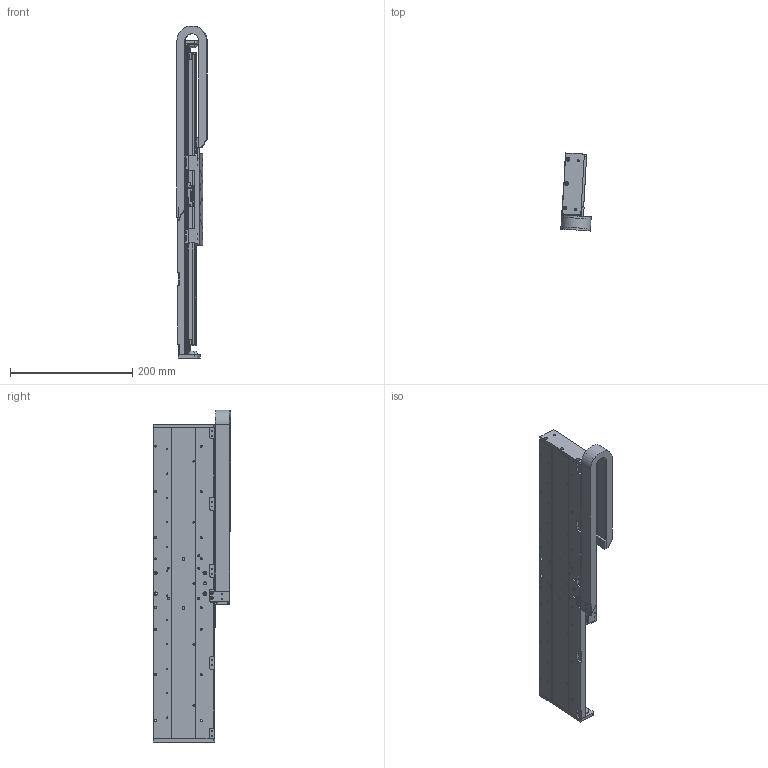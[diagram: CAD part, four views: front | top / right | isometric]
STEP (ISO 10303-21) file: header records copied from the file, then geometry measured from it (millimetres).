
FILE_DESCRIPTION(/* description */ ('MSR100 BASE'),/* implementation_level */ '2;1');
FILE_NAME(/* name */ 'I:\FY15 Projects\MSR\MSR100\Web Step Models\mSR100L-350XLDXXXXXXCM13.stp',/* time_stamp */ '2015-02-18T13:26:04-05:00',/* author */ ('BF20108'),/* organization */ (''),/* preprocessor_version */ 'ST-DEVELOPER v15.2',/* originating_system */ 'Autodesk Inventor 2014',/* authorisation */ '');
FILE_SCHEMA (('AUTOMOTIVE_DESIGN { 1 0 10303 214 3 1 1 }'));
Products named in the file (17): 102-5710-09; 003-3562-41; 102-5702-08; ml18-120m-n; 102-5703-01; 102-5705-01; 002-3740-09; 003-3561; 003-5000; 102-5708; ML18-5E; 002-3740-long-carriage-assy; mx100-mcb; mx100-scb; e045-16-018-carrier-11; 002-3740-cbl-carr-lc-04; 002-3740
Bounding box: 49.76 x 127.66 x 544.13 mm (x, y, z)
Volume: 905428.2 mm3; surface area: 423111.8 mm2
Topology: 25 solids, 26 shells, 2973 faces, 7953 edges, 5102 vertices
Faces by surface type: plane 1438, cylinder 1128, cone 203, torus 192, bspline 8, sphere 4
Full cylindrical faces by diameter (mm): 0.5 x8, 1 x4, 1.567 x101, 1.588 x2, 2.007 x18, 2.013 x16, 2.135 x4, 2.4 x68, 2.459 x23, 2.5 x20, 2.642 x4, 2.75 x1, 3 x28, 3.242 x10, 3.4 x31, 3.505 x4, 4 x4, 4.17 x2, 4.2 x69, 4.5 x18, 5 x9, 5.08 x2, 6 x35, 11.176 x4
Entity records: 53760 total; most frequent: CARTESIAN_POINT 10102, DIRECTION 9006, ORIENTED_EDGE 8256, EDGE_CURVE 4114, AXIS2_PLACEMENT_3D 3208, VERTEX_POINT 2936, EDGE_LOOP 2718, LINE 2590
